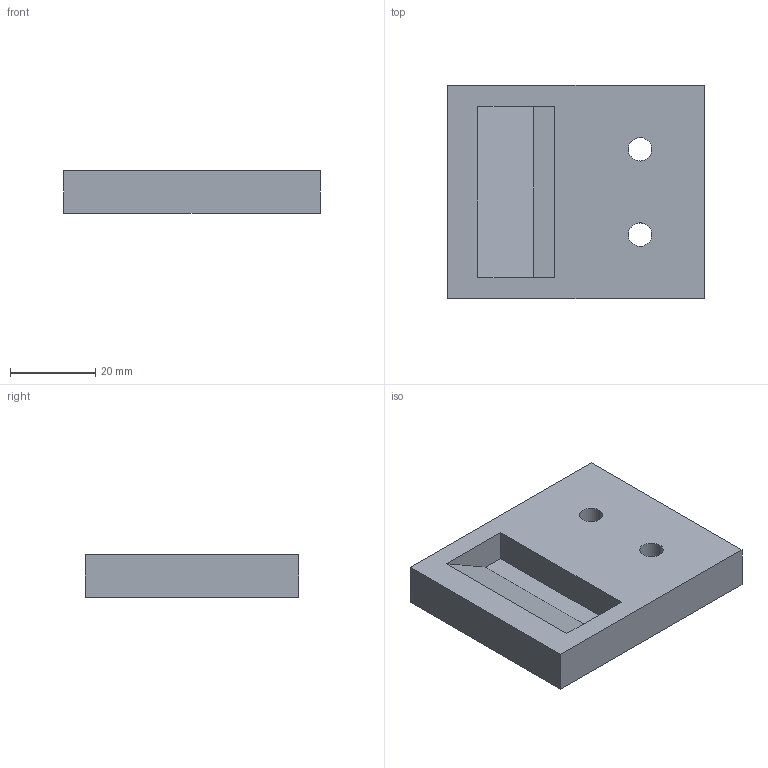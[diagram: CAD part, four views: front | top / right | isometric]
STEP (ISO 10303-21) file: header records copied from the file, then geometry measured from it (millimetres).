
FILE_DESCRIPTION (( 'STEP AP214' ), '1' );
FILE_NAME ('GZ46.03_V1滑动底座.STEP', '2021-06-24T08:55:29', ( '微软中国' ), ( 'Microsoft' ), 'SwSTEP 2.0', 'SolidWorks 2017', '' );
FILE_SCHEMA (( 'AUTOMOTIVE_DESIGN' ));
Length unit declared in the file: millimetre
Products named in the file (1): GZ46.03_V1賑雄菁釱
Bounding box: 60 x 50 x 10 mm (x, y, z)
Volume: 25450.3 mm3; surface area: 9164.5 mm2
Topology: 1 solids, 1 shells, 21 faces, 48 edges, 32 vertices
Faces by surface type: plane 13, cylinder 8
Entity records: 640 total; most frequent: DIRECTION 108, CARTESIAN_POINT 102, ORIENTED_EDGE 96, EDGE_CURVE 48, AXIS2_PLACEMENT_3D 38, VERTEX_POINT 32, VECTOR 32, LINE 32
